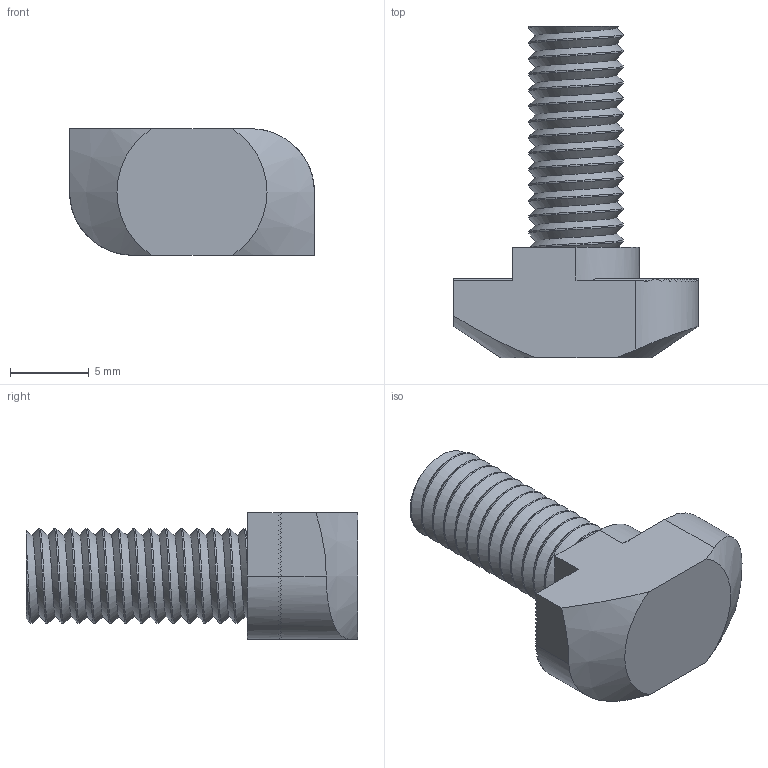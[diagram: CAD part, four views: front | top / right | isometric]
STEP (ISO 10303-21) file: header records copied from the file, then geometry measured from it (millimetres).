
FILE_DESCRIPTION (( 'STEP AP203' ), '1' );
FILE_NAME ('112-CE-TS-30.STEP', '2015-07-09T08:44:42', ( '' ), ( '' ), 'SwSTEP 2.0', 'SolidWorks 2013', '' );
FILE_SCHEMA (( 'CONFIG_CONTROL_DESIGN' ));
Length unit declared in the file: millimetre
Products named in the file (1): 112-CE-TS-30
Bounding box: 15.5 x 21 x 8 mm (x, y, z)
Volume: 990.7 mm3; surface area: 830 mm2
Topology: 1 solids, 1 shells, 154 faces, 453 edges, 302 vertices
Faces by surface type: plane 117, cylinder 33, bspline 2, cone 2
Entity records: 6733 total; most frequent: CARTESIAN_POINT 3082, ORIENTED_EDGE 906, DIRECTION 584, EDGE_CURVE 453, VERTEX_POINT 302, LINE 266, VECTOR 266, AXIS2_PLACEMENT_3D 159
